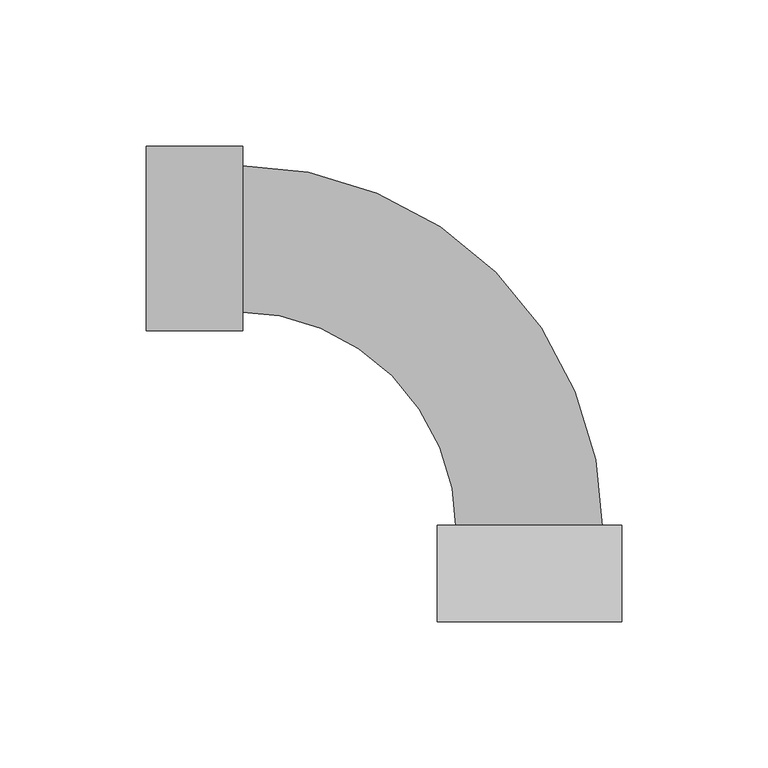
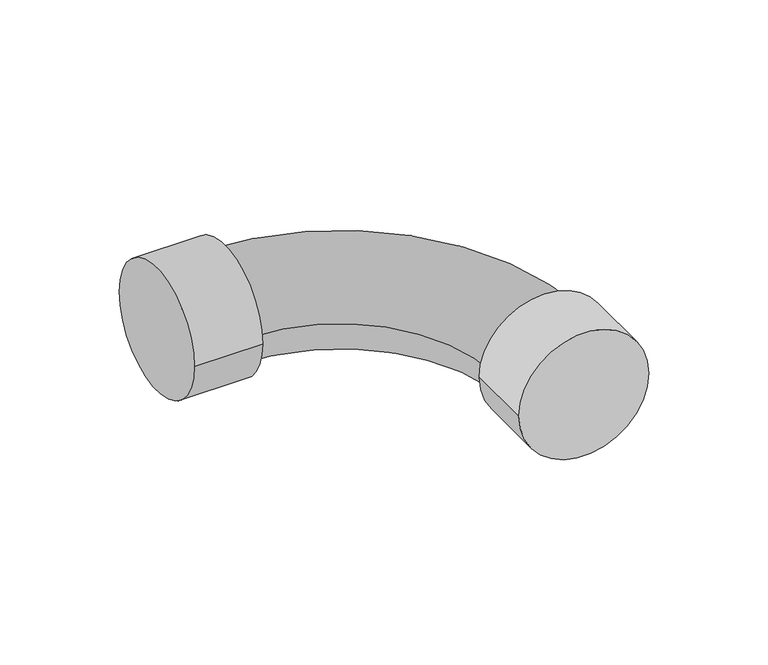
"""IFC4 building model written with IfcOpenShell, lengths in millimetres: pipe fitting geometry, 01051159 : Curva a 90º F/F."""

from ifc_helpers import new_model, si_unit, point, frame, origin, origin_2d, place, context, project, spatial, circle_curve, ellipse_curve, trimmed, segment, composite_curve, outline, extrude, source, transform, mapped, element, save
from ifc_brep_helpers import plane_surface, revolved_surface, advanced_brep


def pipe_fitting_d6d2c964(model_context):
    return source(origin(), model_context, "Body", "SolidModel", [
        extrude(outline(composite_curve([segment(trimmed(circle_curve(origin_2d(), 31.5), [point((31.5, 0.0))], [point((-31.5, 0.0))], False, "CARTESIAN"), True, "CONTINUOUS"), segment(trimmed(circle_curve(origin_2d(), 31.5), [point((-31.5, 0.0))], [point((31.5, 0.0))], False, "CARTESIAN"), True, "CONTINUOUS")], self_intersect=False)), frame((-131.0, 0.0, 0.0), z_axis=(1.0, 0.0, 0.0), x_axis=(0.0, 1.0, 0.0)), (0.0, 0.0, 1.0), 33.0),
        extrude(outline(composite_curve([segment(trimmed(circle_curve(origin_2d(), 31.5), [point((0.0, -31.5))], [point((0.0, 31.5))], False, "CARTESIAN"), True, "CONTINUOUS"), segment(trimmed(circle_curve(origin_2d(), 31.5), [point((0.0, 31.5))], [point((0.0, -31.5))], False, "CARTESIAN"), True, "CONTINUOUS")], self_intersect=False)), frame((0.0, -131.0, 0.0), z_axis=(0.0, 1.0, 0.0), x_axis=(0.0, 0.0, 1.0)), (0.0, 0.0, 1.0), 33.0),
        advanced_brep(
        [(-25.0, -100.0, 0.0), (25.0, -100.0, 0.0), (-100.0, -25.0, 0.0), (-100.0, 25.0, 0.0)],
        [
            (0, 1, circle_curve(frame((0.0, -100.0, 0.0), z_axis=(0.0, -1.0, 0.0), x_axis=(1.0, 0.0, 0.0)), 25.0)),
            (1, 0, circle_curve(frame((0.0, -100.0, 0.0), z_axis=(0.0, -1.0, 0.0), x_axis=(1.0, 0.0, 0.0)), 25.0)),
            (2, 3, circle_curve(frame((-100.0, 0.0, 0.0), z_axis=(-1.0, 0.0, 0.0), x_axis=(0.0, 1.0, 0.0)), 25.0)),
            (3, 2, circle_curve(frame((-100.0, 0.0, 0.0), z_axis=(-1.0, 0.0, 0.0), x_axis=(0.0, 1.0, 0.0)), 25.0)),
            (2, 0, circle_curve(frame((-100.0, -100.0, 0.0), z_axis=(0.0, 0.0, -1.0), x_axis=(1.0, 0.0, 0.0)), 75.0)),
            (1, 3, circle_curve(frame((-100.0, -100.0, 0.0), z_axis=(0.0, 0.0, 1.0), x_axis=(1.0, 0.0, 0.0)), 125.0)),
        ],
        [
            plane_surface(frame((0.0, -100.0, 0.0), z_axis=(0.0, -1.0, 0.0), x_axis=(0.0, 0.0, 1.0))),
            plane_surface(frame((-100.0, 0.0, 0.0), z_axis=(-1.0, 0.0, 0.0), x_axis=(0.0, 0.0, 1.0))),
            revolved_surface(trimmed(ellipse_curve(frame((0.0, -100.0, 0.0), z_axis=(0.0, 1.0, 0.0), x_axis=(1.0, 0.0, 0.0)), 25.0, 25.0), [point((-25.0, -100.0, 0.0))], [point((25.0, -100.0, 0.0))], True, "CARTESIAN"), (-100.0, -100.0, 0.0), (0.0, 0.0, -1.0)),
            revolved_surface(trimmed(ellipse_curve(frame((0.0, -100.0, 0.0), z_axis=(0.0, 1.0, 0.0), x_axis=(1.0, 0.0, 0.0)), 25.0, 25.0), [point((25.0, -100.0, 0.0))], [point((-25.0, -100.0, 0.0))], True, "CARTESIAN"), (-100.0, -100.0, 0.0), (0.0, 0.0, -1.0)),
        ],
        [
            (0, [[1, 2]]),
            (1, [[3, 4]]),
            (2, [[-3, 5, -2, 6]]),
            (3, [[-4, -6, -1, -5]]),
        ],
    ),
    ])


if __name__ == "__main__":
    model = new_model("IFC4")
    model_context = context("Model", 3, world=origin())
    ifc_project = project(units=[si_unit("LENGTHUNIT", "METRE", prefix="MILLI")], contexts=[model_context])
    site = spatial("IfcSite", under=ifc_project)
    building = spatial("IfcBuilding", under=site)
    placement = place(None, origin())
    pipe_fitting_shape = pipe_fitting_d6d2c964(model_context)
    element("IfcPipeFitting", 1, ObjectType="01051159 : Curva a 90º F/F", at=placement, inside=building, context=model_context, shape_type="MappedRepresentation", body=[
        mapped(pipe_fitting_shape, transform((0.0, 0.0, 0.0), x_axis=(1.0, 0.0, 0.0), y_axis=(0.0, 1.0, 0.0), z_axis=(0.0, 0.0, 1.0))),
    ])
    save(model, "model.ifc")
